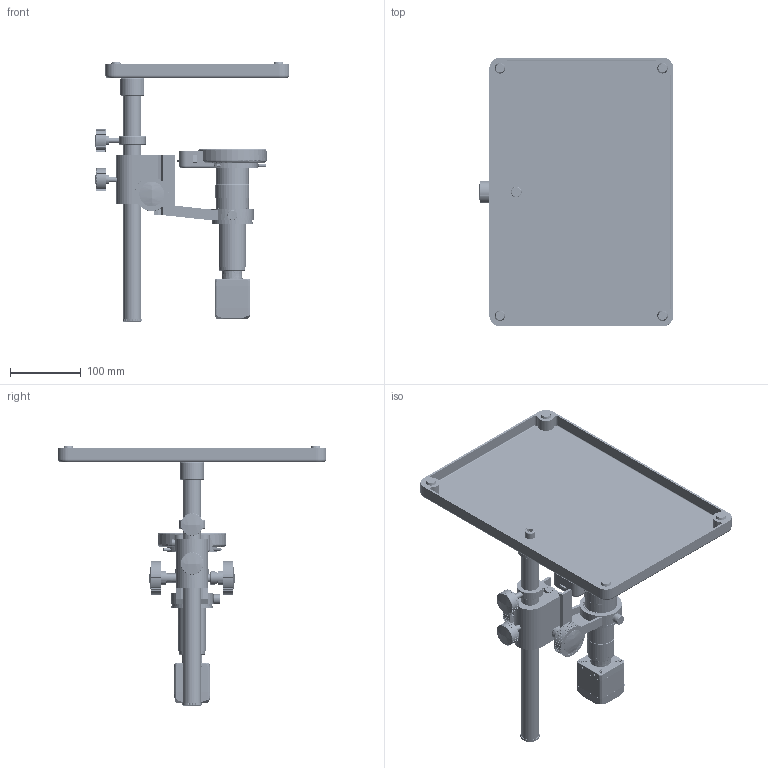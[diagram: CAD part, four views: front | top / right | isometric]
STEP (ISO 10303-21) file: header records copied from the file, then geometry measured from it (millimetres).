
FILE_DESCRIPTION((''),'2;1');
FILE_NAME('HDMI00_ASM','2024-03-13T10:13:09',('fangzhiyong'),(''),'CREO PARAMETRIC BY PTC INC, 2020044','CREO PARAMETRIC BY PTC INC, 2020044','');
FILE_SCHEMA(('CONFIG_CONTROL_DESIGN'));
Products named in the file (101): ADMICE72HQW4_1_1_1_1; ADMICE72HQW4_2_1_1_1; ADMICE72HQW4_3_1_1_1; ADMICE72HQW4_4_1_1_1; ADMICE72HQW4_5_1_1_1; ADMICE72HQW4_6_1_1_1; ADMICE72HQW4_7_1_1_1; ADMICE72HQW4_8_1_1_1; ADMICE72HQW4_9_1_1_1; ADMICE72HQW4_10_1_1_1; ADMICE72HQW4_11_1_1_1; ADMICE72HQW4_ASM_1_1_ASM_1_ASM; B1000_ASM_1_1_ASM_1_ASM; BREP_43_1_1_1; BREP_32_1_1_1; BREP_54_1_1_1; BREP_46_1_1_1; BREP_35_1_1_1; BREP_62_1_1_1; BREP_51_1_1_1; BREP_55_1_1_1; BREP_44_1_1_1; BREP_41_1_1_1; BREP_31_1_1_1; BREP_58_1_1_1; BREP_38_1_1_1; BREP_60_1_1_1; BREP_57_1_1_1; BREP_40_1_1_1; BREP_48_1_1_1; BREP_45_1_1_1; BREP_53_1_1_1; BREP_37_1_1_1; BREP_33_1_1_1; BREP_50_1_1_1; ADMI3E458BAH_ASM_1_1_ASM_1_ASM; B100002_ASM_1_1_ASM_1_ASM; ADMI2072HVA5_1_1_1_1; ADMI2072HVA5_2_1_1_1; ADMI2072HVA5_3_1_1_1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
Assembly tree (103 placements, depth 8):
  HDMI00_ASM
    HDMI00_ASM_ASM_1_ASM
      HDMI00_ASM_1_1_ASM_1_ASM
        B1000_ASM_1_1_ASM_1_ASM
          ADMICE72HQW4_ASM_1_1_ASM_1_ASM
            ADMICE72HQW4_1_1_1_1
            ADMICE72HQW4_2_1_1_1
            ADMICE72HQW4_3_1_1_1
            ADMICE72HQW4_4_1_1_1
            ADMICE72HQW4_5_1_1_1
            ADMICE72HQW4_6_1_1_1
            ADMICE72HQW4_7_1_1_1
            ADMICE72HQW4_8_1_1_1
            ADMICE72HQW4_9_1_1_1
            ADMICE72HQW4_10_1_1_1
            ADMICE72HQW4_11_1_1_1
        B100002_ASM_1_1_ASM_1_ASM
          ADMI3E458BAH_ASM_1_1_ASM_1_ASM
            BREP_43_1_1_1
            BREP_32_1_1_1
            BREP_54_1_1_1
            BREP_46_1_1_1
            BREP_35_1_1_1
            BREP_62_1_1_1
            BREP_51_1_1_1
            BREP_55_1_1_1
            BREP_44_1_1_1
            BREP_41_1_1_1
            BREP_31_1_1_1
            BREP_58_1_1_1
            BREP_38_1_1_1
            BREP_60_1_1_1
            BREP_57_1_1_1
            BREP_40_1_1_1
            BREP_48_1_1_1
            BREP_45_1_1_1
            BREP_53_1_1_1
            BREP_37_1_1_1
            BREP_33_1_1_1
            BREP_50_1_1_1
        MZ45A00_ASM_1_1_ASM_1_ASM
          ADMI2072HVA5_ASM_1_1_ASM_1_ASM
            ADMI2072HVA5_1_1_1_1
            ADMI2072HVA5_2_1_1_1
            ADMI2072HVA5_3_1_1_1
            ADMI2072HVA5_4_1_1_1
            ADMI2072HVA5_5_1_1_1
            ADMI2072HVA5_6_1_1_1
            ADMI2072HVA5_7_1_1_1
            ADMI2072HVA5_8_1_1_1
            ADMI2072HVA5_9_1_1_1
            ADMI2072HVA5_10_1_1_1
            ADMI2072HVA5_11_1_1_1
            ADMI2072HVA5_12_1_1_1
            ADMI2072HVA5_13_1_1_1
            ADMI2072HVA5_14_1_1_1
            ADMI2072HVA5_15_1_1_1
            ADMI2072HVA5_16_1_1_1
            ADMI2072HVA5_17_1_1_1
            ADMI2072HVA5_18_1_1_1
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Bounding box: 275 x 380 x 368 mm (x, y, z)
Volume: 1165301.3 mm3; surface area: 585397.2 mm2
Topology: 89 solids, 97 shells, 10280 faces, 31346 edges, 20816 vertices
Faces by surface type: plane 6118, cylinder 3255, cone 632, torus 128, bspline 73, sphere 41, extrusion 33
Entity records: 370900 total; most frequent: CARTESIAN_POINT 83035, ORIENTED_EDGE 62246, DIRECTION 58841, EDGE_CURVE 31123, VECTOR 21505, LINE 21472, VERTEX_POINT 20702, AXIS2_PLACEMENT_3D 18668
